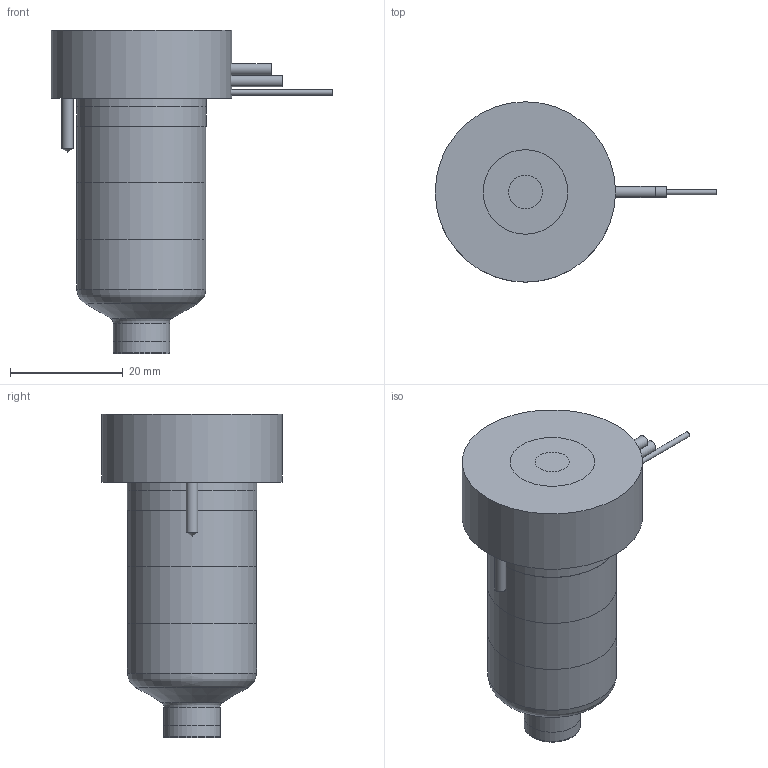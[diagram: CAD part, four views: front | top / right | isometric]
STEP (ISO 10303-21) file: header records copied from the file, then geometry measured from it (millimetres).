
FILE_DESCRIPTION(/* description */ (''),/* implementation_level */ '2;1');
FILE_NAME(/* name */ 'MXTBN-MXIBN-MXOBN13045_200C_b',/* time_stamp */ '2007-01-18T09:50:18+13:00',/* author */ (''),/* organization */ (''),/* preprocessor_version */ 'ST-DEVELOPER v9',/* originating_system */ 'UGS - NX 4.0',/* authorisation */ '');
FILE_SCHEMA (('CONFIG_CONTROL_DESIGN'));
Length unit declared in the file: millimetre
Products named in the file (1): MXTBN-MXIBN-MXOBN13045_200C_b
Bounding box: 49.95 x 32 x 57.32 mm (x, y, z)
Volume: 46917 mm3; surface area: 12529.2 mm2
Topology: 7 solids, 7 shells, 78 faces, 147 edges, 95 vertices
Faces by surface type: plane 35, cylinder 27, cone 8, torus 7, bspline 1
Full cylindrical faces by diameter (mm): 0.9 x1, 1 x3, 2 x4, 6 x1, 9.61 x1, 10.01 x2, 12.6 x1, 18.8 x1, 22.9 x2, 23 x2, 32 x1
Entity records: 1882 total; most frequent: CARTESIAN_POINT 372, DIRECTION 322, ORIENTED_EDGE 212, AXIS2_PLACEMENT_3D 148, EDGE_LOOP 122, EDGE_CURVE 106, VERTEX_POINT 87, ADVANCED_FACE 78
